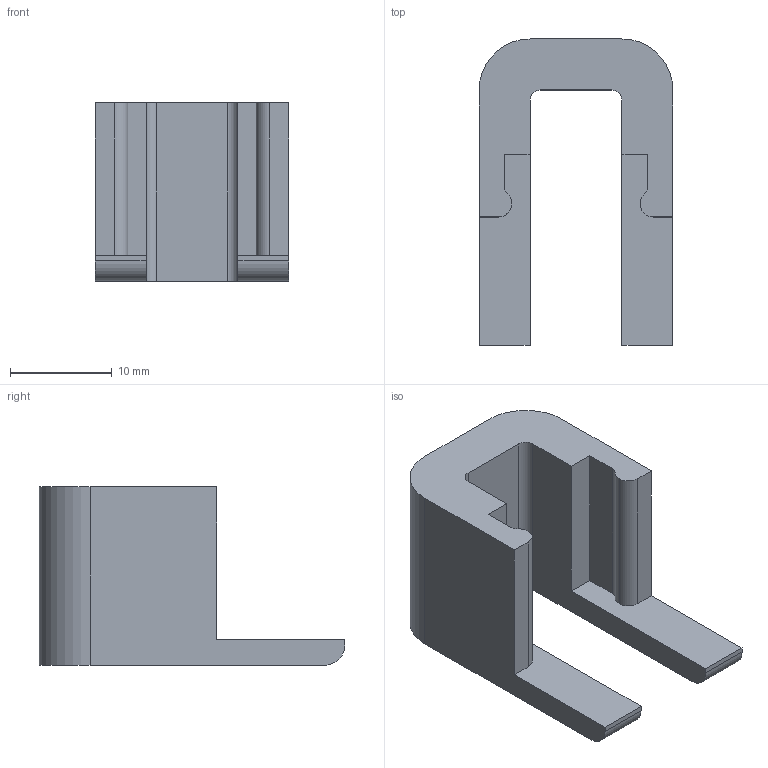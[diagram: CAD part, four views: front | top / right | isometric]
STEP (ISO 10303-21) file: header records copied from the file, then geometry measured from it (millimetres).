
FILE_DESCRIPTION (( 'STEP AP203' ), '1' );
FILE_NAME ('DBP_UPPER_ROLLER_GUIDE_cap.STEP', '2018-11-06T19:05:32', ( '' ), ( '' ), 'SwSTEP 2.0', 'SolidWorks 2015', '' );
FILE_SCHEMA (( 'CONFIG_CONTROL_DESIGN' ));
Length unit declared in the file: inch
Products named in the file (1): DBP_UPPER_ROLLER_GUIDE_cap
Bounding box: 19 x 30 x 17.5 mm (x, y, z)
Volume: 3538.1 mm3; surface area: 2416.3 mm2
Topology: 1 solids, 1 shells, 29 faces, 81 edges, 54 vertices
Faces by surface type: plane 18, cylinder 11
Entity records: 1016 total; most frequent: CARTESIAN_POINT 165, DIRECTION 163, ORIENTED_EDGE 162, EDGE_CURVE 81, LINE 59, VECTOR 59, VERTEX_POINT 54, AXIS2_PLACEMENT_3D 52
